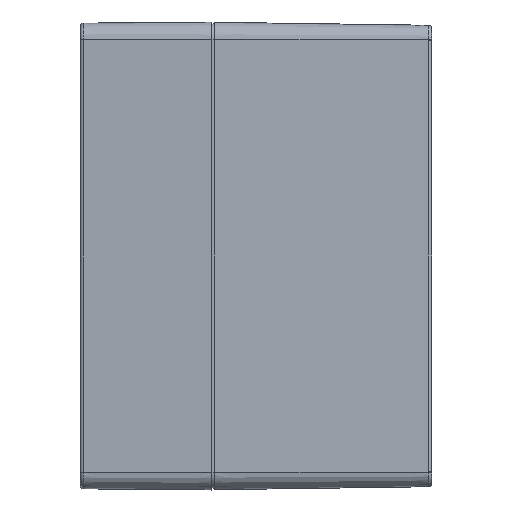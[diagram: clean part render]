
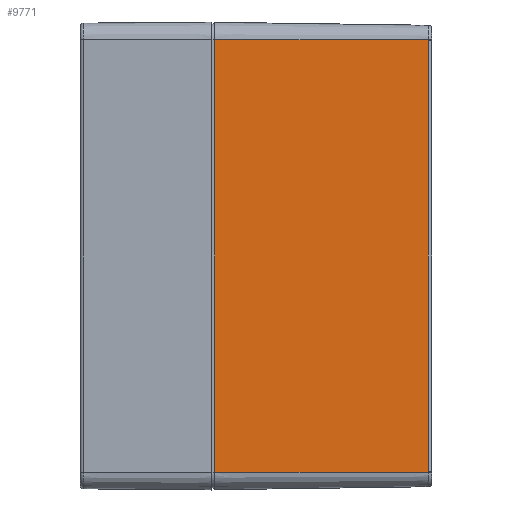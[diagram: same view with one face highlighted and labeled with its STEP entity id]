
A CAD part, left-side view. The second image highlights one B-rep face of the part: STEP entity #9771.
In plain terms, the highlighted planar face has unit normal (-1, -0.014, 0).
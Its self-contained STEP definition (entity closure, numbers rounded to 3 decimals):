
#1555 = ORIENTED_EDGE ( 'NONE', *, *, #18582, .T. ) ;
#2493 = CARTESIAN_POINT ( 'NONE',  ( -118.769, -73.868, -73.85 ) ) ;
#3122 = CARTESIAN_POINT ( 'NONE',  ( -118.769, -73.867, -73.557 ) ) ;
#3445 = CARTESIAN_POINT ( 'NONE',  ( -118.769, -73.867, 73.557 ) ) ;
#3655 = ORIENTED_EDGE ( 'NONE', *, *, #62039, .T. ) ;
#3791 = DIRECTION ( 'NONE',  ( 0., 0., 1. ) ) ;
#5071 = LINE ( 'NONE', #15082, #34975 ) ;
#7335 = CARTESIAN_POINT ( 'NONE',  ( -118.769, -73.867, -73.576 ) ) ;
#9471 = VERTEX_POINT ( 'NONE', #46004 ) ;
#9771 = ADVANCED_FACE ( 'NONE', ( #24988 ), #24656, .T. ) ;
#9856 = EDGE_LOOP ( 'NONE', ( #1555, #56047, #12903, #29248, #3655, #48000 ) ) ;
#10351 = VECTOR ( 'NONE', #18790, 1000. ) ;
#11425 = B_SPLINE_CURVE_WITH_KNOTS ( 'NONE', 3,
 ( #2493, #41722, #46570, #18298, #42680, #7335, #3122 ),
 .UNSPECIFIED., .F., .F.,
 ( 4, 3, 4 ),
 ( 0., 0., 0. ),
 .UNSPECIFIED. ) ;
#12903 = ORIENTED_EDGE ( 'NONE', *, *, #43376, .F. ) ;
#15082 = CARTESIAN_POINT ( 'NONE',  ( -118.769, -73.867, 73.85 ) ) ;
#17524 = CARTESIAN_POINT ( 'NONE',  ( -118.769, -73.867, 73.595 ) ) ;
#17851 = CARTESIAN_POINT ( 'NONE',  ( -118.769, -73.868, 73.85 ) ) ;
#18298 = CARTESIAN_POINT ( 'NONE',  ( -118.769, -73.867, -73.614 ) ) ;
#18582 = EDGE_CURVE ( 'NONE', #50921, #9471, #39070, .T. ) ;
#18790 = DIRECTION ( 'NONE',  ( -0.014, 1., 0. ) ) ;
#19082 = AXIS2_PLACEMENT_3D ( 'NONE', #25303, #39296, #59044 ) ;
#20997 = EDGE_CURVE ( 'NONE', #9471, #45165, #52084, .T. ) ;
#21869 = CARTESIAN_POINT ( 'NONE',  ( -118.769, -73.867, -73.557 ) ) ;
#23671 = LINE ( 'NONE', #43469, #10351 ) ;
#24656 = PLANE ( 'NONE',  #19082 ) ;
#24988 = FACE_OUTER_BOUND ( 'NONE', #9856, .T. ) ;
#25303 = CARTESIAN_POINT ( 'NONE',  ( -119.8, 0., 73.85 ) ) ;
#27485 = B_SPLINE_CURVE_WITH_KNOTS ( 'NONE', 3,
 ( #56793, #60980, #17524, #61924, #37344, #62245, #17851 ),
 .UNSPECIFIED., .F., .F.,
 ( 4, 3, 4 ),
 ( 0., 0., 0. ),
 .UNSPECIFIED. ) ;
#29248 = ORIENTED_EDGE ( 'NONE', *, *, #47093, .T. ) ;
#29350 = CARTESIAN_POINT ( 'NONE',  ( -119.8, 0., 73.85 ) ) ;
#31336 = VECTOR ( 'NONE', #52397, 1000. ) ;
#34975 = VECTOR ( 'NONE', #3791, 1000. ) ;
#37344 = CARTESIAN_POINT ( 'NONE',  ( -118.769, -73.868, 73.693 ) ) ;
#39070 = LINE ( 'NONE', #29350, #48546 ) ;
#39296 = DIRECTION ( 'NONE',  ( -1., -0.014, 0. ) ) ;
#41722 = CARTESIAN_POINT ( 'NONE',  ( -118.769, -73.868, -73.771 ) ) ;
#42603 = VERTEX_POINT ( 'NONE', #3445 ) ;
#42680 = CARTESIAN_POINT ( 'NONE',  ( -118.769, -73.867, -73.595 ) ) ;
#43376 = EDGE_CURVE ( 'NONE', #57351, #45165, #23671, .T. ) ;
#43469 = CARTESIAN_POINT ( 'NONE',  ( -119.8, 0., -73.85 ) ) ;
#45165 = VERTEX_POINT ( 'NONE', #53569 ) ;
#46004 = CARTESIAN_POINT ( 'NONE',  ( -119.786, -1., 73.85 ) ) ;
#46570 = CARTESIAN_POINT ( 'NONE',  ( -118.769, -73.868, -73.693 ) ) ;
#47093 = EDGE_CURVE ( 'NONE', #57351, #51582, #11425, .T. ) ;
#48000 = ORIENTED_EDGE ( 'NONE', *, *, #48326, .T. ) ;
#48326 = EDGE_CURVE ( 'NONE', #42603, #50921, #27485, .T. ) ;
#48546 = VECTOR ( 'NONE', #58199, 1000. ) ;
#50921 = VERTEX_POINT ( 'NONE', #51637 ) ;
#51582 = VERTEX_POINT ( 'NONE', #21869 ) ;
#51637 = CARTESIAN_POINT ( 'NONE',  ( -118.769, -73.868, 73.85 ) ) ;
#52084 = LINE ( 'NONE', #61119, #31336 ) ;
#52397 = DIRECTION ( 'NONE',  ( 0., 0., -1. ) ) ;
#53569 = CARTESIAN_POINT ( 'NONE',  ( -119.786, -1., -73.85 ) ) ;
#56047 = ORIENTED_EDGE ( 'NONE', *, *, #20997, .T. ) ;
#56793 = CARTESIAN_POINT ( 'NONE',  ( -118.769, -73.867, 73.557 ) ) ;
#57351 = VERTEX_POINT ( 'NONE', #61688 ) ;
#58199 = DIRECTION ( 'NONE',  ( -0.014, 1., 0. ) ) ;
#59044 = DIRECTION ( 'NONE',  ( 0.014, -1., 0. ) ) ;
#60980 = CARTESIAN_POINT ( 'NONE',  ( -118.769, -73.867, 73.576 ) ) ;
#61119 = CARTESIAN_POINT ( 'NONE',  ( -119.786, -1., 73.85 ) ) ;
#61688 = CARTESIAN_POINT ( 'NONE',  ( -118.769, -73.868, -73.85 ) ) ;
#61924 = CARTESIAN_POINT ( 'NONE',  ( -118.769, -73.867, 73.614 ) ) ;
#62039 = EDGE_CURVE ( 'NONE', #51582, #42603, #5071, .T. ) ;
#62245 = CARTESIAN_POINT ( 'NONE',  ( -118.769, -73.868, 73.771 ) ) ;
